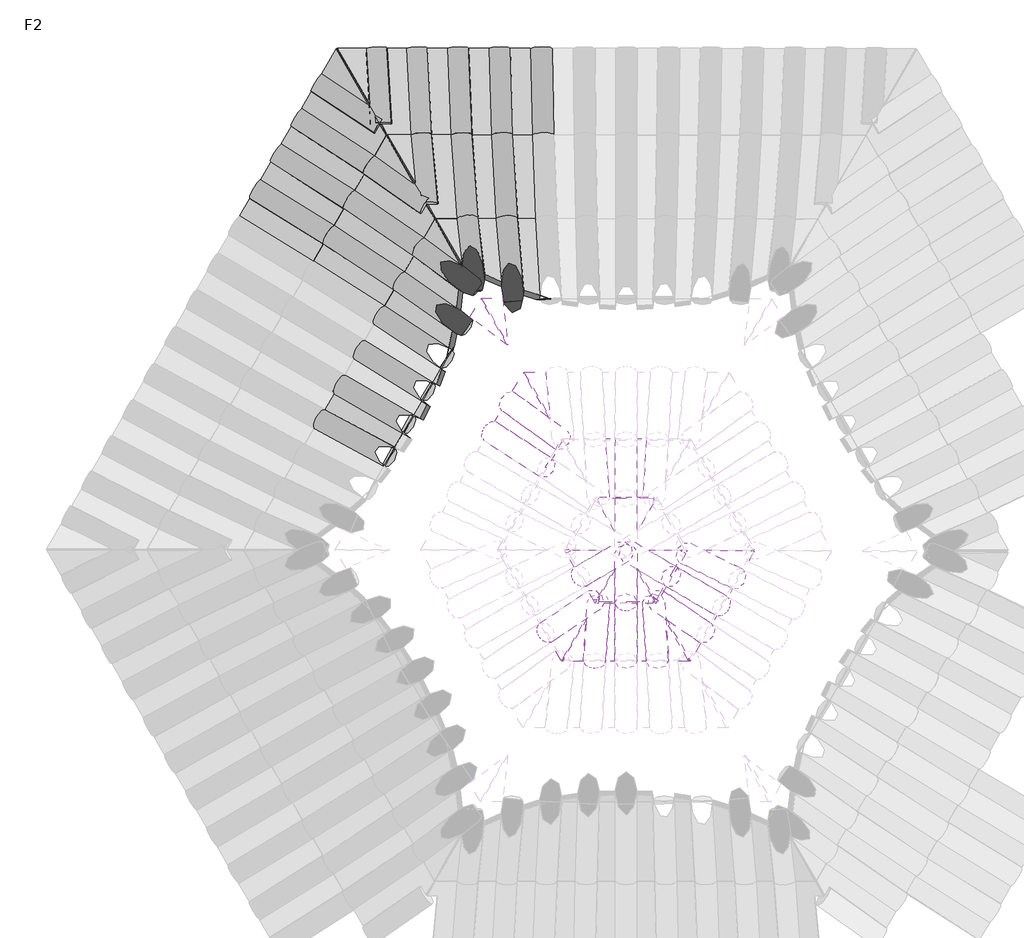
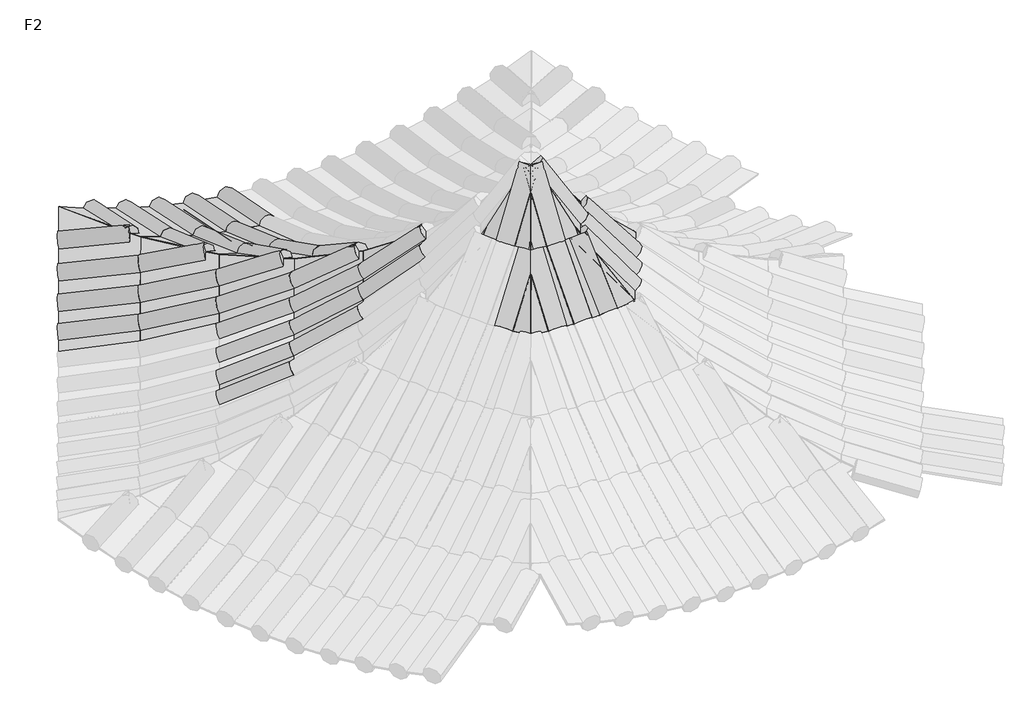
# One storey, part 4 of 6: 65 plates, 40 members.
"""IFC4 building model written with IfcOpenShell, lengths in millimetres."""

from ifc_helpers import new_model, si_unit, origin, place, context, project, spatial, transform, mapped, element, save
from components import member_7626b7be, member_5a0915c5, member_3b22838b, member_1e72f84d, member_f81221a5, member_02d8162e, member_7e32749a, member_c71233b3, member_69260188, member_985b398b, member_f4842659, member_5ab32efa, member_9361b17f, member_fd7b3f03, member_f726278f, member_74f9c3dd, member_f9a0b85f, member_28539939, member_3c0b60bf, member_ee4a1047, member_c9bd8968, member_42887ada, plate_0ebb438e, plate_6b57b127, plate_d3f52e52, plate_d213f6b1, plate_9638d80c, plate_89c366d1, plate_aaafe28a, plate_ecf98e0f, plate_a8a21952, plate_665b0e48, plate_f97c0013, plate_6a16cba0, plate_1539b490, plate_f5328a12, plate_b5858797, plate_013eb8b5, plate_5d4698b8, plate_7408a29d, plate_4d92cb37, plate_6c5d32f2, plate_1e680183, plate_9ed079f8, plate_51358e00, plate_0b5f84b8, plate_823a82dc, plate_c055fcc8, plate_38bc2d65, plate_a3322e93, plate_fe606144, plate_ecea87b7, plate_f94965ac, plate_2cce4260

model = new_model("IFC4")

# Units and contexts
model_context = context("Model", 3, world=origin())
ifc_project = project(units=[si_unit("LENGTHUNIT", "METRE", prefix="MILLI")], contexts=[model_context])

# Site, building, storey
site = spatial("IfcSite", under=ifc_project)
building = spatial("IfcBuilding", under=site)
storey = spatial("IfcBuildingStorey", under=building, Name="F2", Elevation=4000.0)

# Members
placement = place(None, origin())
member_shape = member_7626b7be(model_context)
element("IfcMember", 1, ObjectType="矩形竖梃 : 圆瓦", at=placement, inside=storey, context=model_context, shape_type="MappedRepresentation", body=[
    mapped(member_shape, transform((-18012.989856, 5191.9599436, 4853.1986775), x_axis=(-0.4679794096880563, -0.8090064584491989, -0.35567375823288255), y_axis=(-0.3144661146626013, -0.22368078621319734, 0.9225388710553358), z_axis=(-0.8258972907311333, 0.5435765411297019, -0.1497271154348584))),
])
member_2_shape = member_5a0915c5(model_context)
element("IfcMember", 2, ObjectType="矩形竖梃 : 圆瓦", at=placement, inside=storey, context=model_context, shape_type="MappedRepresentation", body=[
    mapped(member_2_shape, transform((-15523.9479527, 3.705124, 6102.8064759), x_axis=(0.9981640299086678, 0.0, -0.06056871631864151), y_axis=(0.04011716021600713, -0.7492022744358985, 0.6611252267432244), z_axis=(-0.045378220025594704, -0.6623412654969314, -0.7478267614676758))),
])
member_3_shape = member_3b22838b(model_context)
element("IfcMember", 3, ObjectType="矩形竖梃 : 圆瓦", at=placement, inside=storey, context=model_context, shape_type="MappedRepresentation", body=[
    mapped(member_3_shape, transform((-16001.2524269, 5496.139343, 4486.7877946), x_axis=(-0.9926625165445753, 0.0008272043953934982, 0.12091502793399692), y_axis=(0.11932057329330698, 0.16869991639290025, 0.9784185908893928), z_axis=(-0.019589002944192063, 0.9856671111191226, -0.16756078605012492))),
])
element("IfcMember", 4, ObjectType="矩形竖梃 : 圆瓦", at=placement, inside=storey, context=model_context, shape_type="MappedRepresentation", body=[
    mapped(member_3_shape, transform((-16379.3374915, 5496.4544084, 4544.5156178), x_axis=(-0.9835163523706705, 0.0008195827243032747, 0.18081734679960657), y_axis=(0.178363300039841, 0.16865071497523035, 0.9694036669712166), z_axis=(-0.029700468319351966, 0.9856755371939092, -0.1660169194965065))),
])
element("IfcMember", 5, ObjectType="矩形竖梃 : 圆瓦", at=placement, inside=storey, context=model_context, shape_type="MappedRepresentation", body=[
    mapped(member_3_shape, transform((-16753.2319043, 5496.7659816, 4625.0375895), x_axis=(-0.9707587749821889, 0.000808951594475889, 0.24005571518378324), y_axis=(0.23675160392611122, 0.16860205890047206, 0.9568291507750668), z_axis=(-0.039699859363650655, 0.9856838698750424, -0.16386344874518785))),
])
member_4_shape = member_1e72f84d(model_context)
element("IfcMember", 6, ObjectType="矩形竖梃 : 圆瓦", at=placement, inside=storey, context=model_context, shape_type="MappedRepresentation", body=[
    mapped(member_4_shape, transform((-17121.5627474, 5497.0729187, 4728.0580377), x_axis=(-0.9544366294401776, 0.0007953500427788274, 0.29841261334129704), y_axis=(0.29427108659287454, 0.168554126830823, 0.9407412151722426), z_axis=(-0.04955045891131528, 0.9856920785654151, -0.16110828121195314))),
])
member_5_shape = member_f81221a5(model_context)
element("IfcMember", 7, ObjectType="矩形竖梃 : 圆瓦", at=placement, inside=storey, context=model_context, shape_type="MappedRepresentation", body=[
    mapped(member_5_shape, transform((-15241.8237888, 3.705124, 6094.2546763), x_axis=(1.0, 0.0, 0.0), y_axis=(0.0, -0.7492022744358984, 0.6623412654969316), z_axis=(0.0, -0.6623412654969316, -0.7492022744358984))),
])
member_6_shape = member_02d8162e(model_context)
element("IfcMember", 8, ObjectType="矩形竖梃 : 圆瓦", at=placement, inside=storey, context=model_context, shape_type="MappedRepresentation", body=[
    mapped(member_6_shape, transform((-14385.9670298, 494.3302424, 6094.2546763), x_axis=(0.5053183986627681, 0.8629329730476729, 0.0), y_axis=(0.6465113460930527, -0.3785856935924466, 0.6623412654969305), z_axis=(0.5715561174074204, -0.33469322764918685, -0.7492022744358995))),
])
element("IfcMember", 9, ObjectType="矩形竖梃 : 圆瓦", at=placement, inside=storey, context=model_context, shape_type="MappedRepresentation", body=[
    mapped(member_6_shape, transform((-16355.8707823, 4717.6599128, 4675.6876498), x_axis=(-0.9835163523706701, 0.0008195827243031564, 0.18081734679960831), y_axis=(0.17271902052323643, 0.30020701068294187, 0.9381065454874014), z_axis=(-0.05351377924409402, 0.9538737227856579, -0.2954000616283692))),
])
element("IfcMember", 10, ObjectType="矩形竖梃 : 圆瓦", at=placement, inside=storey, context=model_context, shape_type="MappedRepresentation", body=[
    mapped(member_6_shape, transform((-17810.5976413, 2481.4427269, 4811.1593559), x_axis=(-0.5007215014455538, -0.8656084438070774, 0.0), y_axis=(-0.36909581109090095, 0.21350786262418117, 0.9045345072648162), z_axis=(-0.7829727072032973, 0.45291987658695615, -0.42640042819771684))),
])
element("IfcMember", 11, ObjectType="矩形竖梃 : 圆瓦", at=placement, inside=storey, context=model_context, shape_type="MappedRepresentation", body=[
    mapped(member_6_shape, transform((-17990.7770662, 2169.9625305, 4822.0668801), x_axis=(-0.49980219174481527, -0.8640192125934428, 0.06056871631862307), y_axis=(-0.34166303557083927, 0.2609315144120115, 0.9028738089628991), z_axis=(-0.7959046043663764, 0.4305642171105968, -0.4256175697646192))),
])
element("IfcMember", 12, ObjectType="矩形竖梃 : 圆瓦", at=placement, inside=storey, context=model_context, shape_type="MappedRepresentation", body=[
    mapped(member_6_shape, transform((-17191.9611716, 2123.5851019, 5148.0636351), x_axis=(-0.5007215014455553, -0.8656084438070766, 0.0), y_axis=(-0.4714441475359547, 0.27271247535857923, 0.83867056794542), z_axis=(-0.7259603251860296, 0.4199403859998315, -0.5446390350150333))),
])
member_7_shape = member_7e32749a(model_context)
element("IfcMember", 13, ObjectType="矩形竖梃 : 圆瓦", at=placement, inside=storey, context=model_context, shape_type="MappedRepresentation", body=[
    mapped(member_7_shape, transform((-16721.8645519, 4717.9649024, 4754.5081374), x_axis=(-0.9707587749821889, 0.0008089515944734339, 0.24005571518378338), y_axis=(0.2292222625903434, 0.30015992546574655, 0.9259379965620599), z_axis=(-0.07130606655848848, 0.9538885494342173, -0.2915683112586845))),
])
member_8_shape = member_c71233b3(model_context)
element("IfcMember", 14, ObjectType="矩形竖梃 : 圆瓦", at=placement, inside=storey, context=model_context, shape_type="MappedRepresentation", body=[
    mapped(member_8_shape, transform((-16313.58888, 3963.9924262, 4909.0869108), x_axis=(-0.9835163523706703, 0.0008195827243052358, 0.18081734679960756), y_axis=(0.16391080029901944, 0.4262639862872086, 0.8896247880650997), z_axis=(-0.07634680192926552, 0.9045984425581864, -0.41937193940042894))),
])
member_9_shape = member_69260188(model_context)
element("IfcMember", 15, ObjectType="矩形竖梃 : 圆瓦", at=placement, inside=storey, context=model_context, shape_type="MappedRepresentation", body=[
    mapped(member_9_shape, transform((-16253.2663227, 3249.2579511, 5240.4378936), x_axis=(-0.9835163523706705, 0.0008195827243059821, 0.18081734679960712), y_axis=(0.152507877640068, 0.5409975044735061, 0.8270810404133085), z_axis=(-0.09714387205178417, 0.8410237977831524, -0.5322048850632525))),
])
member_10_shape = member_985b398b(model_context)
element("IfcMember", 16, ObjectType="矩形竖梃 : 圆瓦", at=placement, inside=storey, context=model_context, shape_type="MappedRepresentation", body=[
    mapped(member_10_shape, transform((-14959.6996249, 3.705124, 6102.8064759), x_axis=(0.9981640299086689, 0.0, 0.06056871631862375), y_axis=(-0.04011716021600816, -0.7492022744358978, 0.661125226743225), z_axis=(0.04537822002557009, -0.6623412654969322, -0.7478267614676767))),
])
element("IfcMember", 17, ObjectType="矩形竖梃 : 圆瓦", at=placement, inside=storey, context=model_context, shape_type="MappedRepresentation", body=[
    mapped(member_10_shape, transform((-14243.4044991, 737.7844859, 6102.8064759), x_axis=(0.5043906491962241, 0.861348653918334, 0.060568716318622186), y_axis=(0.626239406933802, -0.41320411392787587, 0.6611252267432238), z_axis=(0.5944865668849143, -0.29553486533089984, -0.7478267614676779))),
])
element("IfcMember", 18, ObjectType="矩形竖梃 : 圆瓦", at=placement, inside=storey, context=model_context, shape_type="MappedRepresentation", body=[
    mapped(member_10_shape, transform((-14837.5606236, 758.7755223, 6686.2087072), x_axis=(0.5053183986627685, 0.8629329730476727, 0.0), y_axis=(0.7177700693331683, -0.42031355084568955, 0.555105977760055), z_axis=(0.4790192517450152, -0.28050526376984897, -0.8317796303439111))),
])
element("IfcMember", 19, ObjectType="矩形竖梃 : 圆瓦", at=placement, inside=storey, context=model_context, shape_type="MappedRepresentation", body=[
    mapped(member_2_shape, transform((-15241.8237888, 527.0291919, 6686.2087072), x_axis=(1.0, 0.0, 0.0), y_axis=(0.0, -0.8317796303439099, 0.5551059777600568), z_axis=(0.0, -0.5551059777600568, -0.8317796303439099))),
])
element("IfcMember", 20, ObjectType="矩形竖梃 : 圆瓦", at=placement, inside=storey, context=model_context, shape_type="MappedRepresentation", body=[
    mapped(member_2_shape, transform((-15960.3021334, 255.8768008, 6102.8064759), x_axis=(0.49836149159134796, -0.8648510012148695, 0.06056871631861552), y_axis=(-0.6691697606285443, -0.3393011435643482, 0.6611252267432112), z_axis=(-0.5512237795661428, -0.37001010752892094, -0.7478267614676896))),
])
element("IfcMember", 21, ObjectType="矩形竖梃 : 圆瓦", at=placement, inside=storey, context=model_context, shape_type="MappedRepresentation", body=[
    mapped(member_2_shape, transform((-15647.7307367, 761.6052317, 6686.2087072), x_axis=(0.4992781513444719, -0.866441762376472, 0.0), y_axis=(-0.7206886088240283, -0.4152893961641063, 0.5551059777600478), z_axis=(-0.4809670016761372, -0.27715228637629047, -0.831779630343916))),
])
member_11_shape = member_f4842659(model_context)
element("IfcMember", 22, ObjectType="矩形竖梃 : 圆瓦", at=placement, inside=storey, context=model_context, shape_type="MappedRepresentation", body=[
    mapped(member_11_shape, transform((-17082.4123139, 4718.2653536, 4855.3516935), x_axis=(-0.9544366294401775, 0.0007953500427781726, 0.29841261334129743), y_axis=(0.2859069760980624, 0.28890557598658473, 0.9136688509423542), z_axis=(-0.08548638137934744, 0.957357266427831, -0.27596946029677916))),
])
member_12_shape = member_5ab32efa(model_context)
element("IfcMember", 23, ObjectType="矩形竖梃 : 圆瓦", at=placement, inside=storey, context=model_context, shape_type="MappedRepresentation", body=[
    mapped(member_12_shape, transform((-16665.5247423, 3964.285701, 4984.8798848), x_axis=(-0.9707587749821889, 0.0008089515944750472, 0.24005571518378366), y_axis=(0.21847238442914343, 0.4173960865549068, 0.8820716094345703), z_axis=(-0.09948476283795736, 0.908724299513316, -0.40536764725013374))),
])
member_13_shape = member_9361b17f(model_context)
element("IfcMember", 24, ObjectType="矩形竖梃 : 圆瓦", at=placement, inside=storey, context=model_context, shape_type="MappedRepresentation", body=[
    mapped(member_13_shape, transform((-17482.977532, 5497.3740924, 4853.1986775), x_axis=(-0.9346098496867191, 0.0007788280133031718, 0.35567375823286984), y_axis=(0.3512132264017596, 0.15991142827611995, 0.9225386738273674), z_axis=(-0.056157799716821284, 0.9871310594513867, -0.1497283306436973))),
])
member_14_shape = member_fd7b3f03(model_context)
element("IfcMember", 25, ObjectType="矩形竖梃 : 圆瓦", at=placement, inside=storey, context=model_context, shape_type="MappedRepresentation", body=[
    mapped(member_14_shape, transform((-17539.7725651, 4454.7162143, 4855.3516935), x_axis=(-0.47790710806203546, -0.8261686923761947, -0.2984126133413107), y_axis=(-0.39332331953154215, -0.10249530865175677, 0.9136692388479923), z_axis=(-0.7854308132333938, 0.554021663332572, -0.2759681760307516))),
])
member_15_shape = member_f726278f(model_context)
element("IfcMember", 26, ObjectType="矩形竖梃 : 圆瓦", at=placement, inside=storey, context=model_context, shape_type="MappedRepresentation", body=[
    mapped(member_15_shape, transform((-18193.9580724, 4879.1161458, 4728.0580377), x_axis=(-0.47790710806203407, -0.8261686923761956, -0.2984126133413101), y_axis=(-0.29339156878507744, -0.17008043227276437, 0.940741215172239), z_axis=(-0.8279650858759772, 0.5371386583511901, -0.1611082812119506))),
])
member_16_shape = member_74f9c3dd(model_context)
element("IfcMember", 27, ObjectType="矩形竖梃 : 圆瓦", at=placement, inside=storey, context=model_context, shape_type="MappedRepresentation", body=[
    mapped(member_16_shape, transform((-17720.3066445, 4142.6229188, 4754.5081374), x_axis=(-0.48607996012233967, -0.8402972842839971, -0.24005571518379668), y_axis=(-0.3746374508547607, -0.04780802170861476, 0.9259379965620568), z_axis=(-0.7895397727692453, 0.5400137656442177, -0.2915683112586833))),
])
member_17_shape = member_f9a0b85f(model_context)
element("IfcMember", 28, ObjectType="矩形竖梃 : 圆瓦", at=placement, inside=storey, context=model_context, shape_type="MappedRepresentation", body=[
    mapped(member_17_shape, transform((-17096.4814547, 3715.9513293, 4984.8798848), x_axis=(-0.4860799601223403, -0.8402972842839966, -0.2400557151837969), y_axis=(-0.47067731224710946, 0.020278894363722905, 0.8820723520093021), z_axis=(-0.7363349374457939, 0.5417464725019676, -0.40536603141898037))),
])
member_18_shape = member_28539939(model_context)
element("IfcMember", 29, ObjectType="矩形竖梃 : 圆瓦", at=placement, inside=storey, context=model_context, shape_type="MappedRepresentation", body=[
    mapped(member_18_shape, transform((-18378.3893093, 4560.2857472, 4625.0375895), x_axis=(-0.48607996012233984, -0.8402972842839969, -0.24005571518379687), y_axis=(-0.2645903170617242, -0.12029106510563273, 0.9568291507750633), z_axis=(-0.832897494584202, 0.5286118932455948, -0.16386344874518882))),
])
element("IfcMember", 30, ObjectType="矩形竖梃 : 圆瓦", at=placement, inside=storey, context=model_context, shape_type="MappedRepresentation", body=[
    mapped(member_18_shape, transform((-18565.606346, 4236.639474, 4544.5156178), x_axis=(-0.4924679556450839, -0.8513403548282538, -0.180817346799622), y_axis=(-0.23535402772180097, -0.06974963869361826, 0.9694036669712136), z_axis=(-0.8379044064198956, 0.5199563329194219, -0.1660169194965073))),
])
member_19_shape = member_3c0b60bf(model_context)
element("IfcMember", 31, ObjectType="矩形竖梃 : 圆瓦", at=placement, inside=storey, context=model_context, shape_type="MappedRepresentation", body=[
    mapped(member_19_shape, transform((-17903.567658, 3825.8155114, 4675.6876498), x_axis=(-0.49246795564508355, -0.851340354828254, -0.18081734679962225), y_axis=(-0.34634505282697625, 0.0011016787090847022, 0.9381065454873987), z_axis=(-0.7984487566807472, 0.5246126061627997, -0.29540006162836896))),
])
element("IfcMember", 32, ObjectType="矩形竖梃 : 圆瓦", at=placement, inside=storey, context=model_context, shape_type="MappedRepresentation", body=[
    mapped(member_19_shape, transform((-17450.9003994, 3103.2593832, 4854.7494012), x_axis=(-0.49704763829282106, -0.8592573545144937, -0.12091502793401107), y_axis=(-0.42386063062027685, 0.11883469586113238, 0.8978978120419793), z_axis=(-0.7571563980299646, 0.49754910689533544, -0.4232718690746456))),
])
element("IfcMember", 33, ObjectType="矩形竖梃 : 圆瓦", at=placement, inside=storey, context=model_context, shape_type="MappedRepresentation", body=[
    mapped(member_19_shape, transform((-17630.4182163, 2792.9229234, 4822.0668801), x_axis=(-0.49980219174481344, -0.8640192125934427, -0.060568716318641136), y_axis=(-0.3965285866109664, 0.1660842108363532, 0.9028738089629), z_axis=(-0.7700408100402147, 0.4752755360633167, -0.42561756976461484))),
])
element("IfcMember", 34, ObjectType="矩形竖梃 : 圆瓦", at=placement, inside=storey, context=model_context, shape_type="MappedRepresentation", body=[
    mapped(member_19_shape, transform((-16852.6617166, 2710.1396485, 5189.1817669), x_axis=(-0.4970476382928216, -0.8592573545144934, -0.1209150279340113), y_axis=(-0.5222212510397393, 0.1849329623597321, 0.8325171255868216), z_axis=(-0.692985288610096, 0.47694506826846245, -0.5406429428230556))),
])
element("IfcMember", 35, ObjectType="矩形竖梃 : 圆瓦", at=placement, inside=storey, context=model_context, shape_type="MappedRepresentation", body=[
    mapped(member_19_shape, transform((-17021.9993994, 2417.4018139, 5158.3526132), x_axis=(-0.49980219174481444, -0.8640192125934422, -0.060568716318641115), y_axis=(-0.49687939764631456, 0.22874199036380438, 0.837130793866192), z_axis=(-0.7094424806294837, 0.44849515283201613, -0.5436390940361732))),
])
element("IfcMember", 36, ObjectType="矩形竖梃 : 圆瓦", at=placement, inside=storey, context=model_context, shape_type="MappedRepresentation", body=[
    mapped(member_19_shape, transform((-16461.4600759, 2063.0402181, 5587.8886197), x_axis=(-0.4998021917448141, -0.8640192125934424, -0.06056871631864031), y_axis=(-0.5881281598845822, 0.28720957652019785, 0.7560528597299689), z_axis=(-0.6358482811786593, 0.41349904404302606, -0.6517020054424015))),
])
member_20_shape = member_ee4a1047(model_context)
element("IfcMember", 37, ObjectType="矩形竖梃 : 圆瓦", at=placement, inside=storey, context=model_context, shape_type="MappedRepresentation", body=[
    mapped(member_20_shape, transform((-17272.7033693, 3411.3125695, 4909.0869108), x_axis=(-0.4924679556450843, -0.8513403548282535, -0.18081734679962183), y_axis=(-0.4509915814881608, 0.07193281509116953, 0.8896247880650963), z_axis=(-0.7443667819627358, 0.519658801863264, -0.41937193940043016))),
])
member_21_shape = member_c9bd8968(model_context)
element("IfcMember", 38, ObjectType="矩形竖梃 : 圆瓦", at=placement, inside=storey, context=model_context, shape_type="MappedRepresentation", body=[
    mapped(member_21_shape, transform((-16684.5699211, 3000.7236899, 5240.4378936), x_axis=(-0.49246795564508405, -0.8513403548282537, -0.18081734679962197), y_axis=(-0.5445384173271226, 0.13932957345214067, 0.8270823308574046), z_axis=(-0.6789353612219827, 0.5057735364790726, -0.5322028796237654))),
])
member_22_shape = member_42887ada(model_context)
element("IfcMember", 39, ObjectType="矩形竖梃 : 圆瓦", at=placement, inside=storey, context=model_context, shape_type="MappedRepresentation", body=[
    mapped(member_22_shape, transform((-14528.5295605, 250.8759989, 6102.8064759), x_axis=(0.5043906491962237, 0.8613486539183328, -0.060568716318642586), y_axis=(0.6667832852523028, -0.34396727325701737, 0.6611252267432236), z_axis=(0.5486256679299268, -0.3738515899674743, -0.7478267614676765))),
])
element("IfcMember", 40, ObjectType="矩形竖梃 : 圆瓦", at=placement, inside=storey, context=model_context, shape_type="MappedRepresentation", body=[
    mapped(member_22_shape, transform((-16305.1254251, 2333.2994208, 5616.3504772), x_axis=(-0.49704763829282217, -0.8592573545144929, -0.12091502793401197), y_axis=(-0.6110155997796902, 0.24764354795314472, 0.7518860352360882), z_axis=(-0.6161197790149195, 0.44760414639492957, -0.6481102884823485))),
])

# Plates
plate_shape = plate_0ebb438e(model_context)
element("IfcPlate", 41, ObjectType="空系统嵌板 : 空", at=placement, inside=storey, context=model_context, shape_type="MappedRepresentation", body=[
    mapped(plate_shape, transform((-18080.6063256, 5075.0698424, 4806.441471), x_axis=(-0.4731604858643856, -0.8179631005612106, -0.3271933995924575), y_axis=(0.30753287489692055, 0.19467718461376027, -0.9314098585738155), z_axis=(0.8255559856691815, -0.5413290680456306, 0.1594369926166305))),
])
plate_2_shape = plate_6b57b127(model_context)
element("IfcPlate", 42, ObjectType="空系统嵌板 : 空", at=placement, inside=storey, context=model_context, shape_type="MappedRepresentation", body=[
    mapped(plate_2_shape, transform((-16190.2949592, 5496.2968757, 4515.6517062), x_axis=(-0.9885432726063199, 0.0008237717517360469, 0.150935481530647), y_axis=(-0.14891211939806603, -0.16859996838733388, -0.9743711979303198), z_axis=(0.024645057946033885, -0.9856842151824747, 0.16679103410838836))),
])
element("IfcPlate", 43, ObjectType="空系统嵌板 : 空", at=placement, inside=storey, context=model_context, shape_type="MappedRepresentation", body=[
    mapped(plate_2_shape, transform((-16566.2846979, 5496.610195, 4584.7766036), x_axis=(-0.9775863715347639, 0.0008146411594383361, 0.21053318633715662), y_axis=(-0.20765537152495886, -0.16855101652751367, -0.9635713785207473), z_axis=(0.03470061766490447, -0.9856925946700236, 0.1649423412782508))),
])
element("IfcPlate", 44, ObjectType="空系统嵌板 : 空", at=placement, inside=storey, context=model_context, shape_type="MappedRepresentation", body=[
    mapped(plate_2_shape, transform((-16937.3973259, 5496.9194502, 4676.5478136), x_axis=(-0.9630398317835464, 0.0008025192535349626, 0.26935782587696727), y_axis=(-0.2656366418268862, -0.1685026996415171, -0.9492333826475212), z_axis=(0.044625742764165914, -0.9857008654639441, 0.16248799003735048))),
])
element("IfcPlate", 45, ObjectType="空系统嵌板 : 空", at=placement, inside=storey, context=model_context, shape_type="MappedRepresentation", body=[
    mapped(plate_2_shape, transform((-18286.1736908, 4719.7009465, 4676.5478136), x_axis=(-0.48221491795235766, -0.8336156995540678, -0.2693578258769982), y_axis=(0.2789885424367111, 0.145331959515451, -0.9492333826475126), z_axis=(0.8304421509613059, -0.5328822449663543, 0.16248799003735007))),
])
element("IfcPlate", 46, ObjectType="空系统嵌板 : 空", at=placement, inside=storey, context=model_context, shape_type="MappedRepresentation", body=[
    mapped(plate_2_shape, transform((-18471.9978276, 4398.4626106, 4584.7766036), x_axis=(-0.48949868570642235, -0.8462073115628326, -0.21053318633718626), y_axis=(0.24995606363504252, 0.09514286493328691, -0.9635713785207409), z_axis=(0.8354118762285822, -0.5242909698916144, 0.16494234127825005))),
])
element("IfcPlate", 47, ObjectType="空系统嵌板 : 空", at=placement, inside=storey, context=model_context, shape_type="MappedRepresentation", body=[
    mapped(plate_2_shape, transform((-18660.2640395, 4073.002605, 4515.6517062), x_axis=(-0.49498504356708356, -0.8556917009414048, -0.15093548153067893), y_axis=(0.22054204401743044, 0.04429419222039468, -0.9743711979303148), z_axis=(0.840446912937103, -0.5155867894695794, 0.16679103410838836))),
])
plate_3_shape = plate_d3f52e52(model_context)
element("IfcPlate", 48, ObjectType="空系统嵌板 : 空", at=placement, inside=storey, context=model_context, shape_type="MappedRepresentation", body=[
    mapped(plate_3_shape, transform((-17440.2413062, 4627.558505, 4924.281917), x_axis=(-0.4731604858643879, -0.8179631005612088, -0.3271933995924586), y_axis=(0.41615250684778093, 0.11982658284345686, -0.9013648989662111), z_axis=(0.7764896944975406, -0.5626526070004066, 0.28370019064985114))),
])
plate_4_shape = plate_d213f6b1(model_context)
element("IfcPlate", 49, ObjectType="空系统嵌板 : 空", at=placement, inside=storey, context=model_context, shape_type="MappedRepresentation", body=[
    mapped(plate_4_shape, transform((-17607.3080437, 4337.9661239, 4817.6274153), x_axis=(-0.4822149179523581, -0.8336156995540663, -0.2693578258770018), y_axis=(0.38852894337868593, 0.07207311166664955, -0.9186134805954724), z_axis=(0.7851840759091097, -0.5476224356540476, 0.28912909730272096))),
])
plate_5_shape = plate_9638d80c(model_context)
element("IfcPlate", 50, ObjectType="空系统嵌板 : 空", at=placement, inside=storey, context=model_context, shape_type="MappedRepresentation", body=[
    mapped(plate_5_shape, transform((-16170.8228472, 4717.5057089, 4647.4336523), x_axis=(-0.9885432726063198, 0.0008237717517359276, 0.1509354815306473), y_axis=(-0.14422270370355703, -0.3001052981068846, -0.9429404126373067), z_axis=(0.04451977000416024, -0.953905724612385, 0.2967858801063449))),
])
element("IfcPlate", 51, ObjectType="空系统嵌板 : 空", at=placement, inside=storey, context=model_context, shape_type="MappedRepresentation", body=[
    mapped(plate_5_shape, transform((-16538.8676671, 4717.8124076, 4715.0978936), x_axis=(-0.9775863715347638, 0.0008146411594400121, 0.2105331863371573), y_axis=(-0.20107104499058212, -0.30005792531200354, -0.9324889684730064), z_axis=(0.062412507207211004, -0.9539206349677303, 0.29349633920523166))),
])
element("IfcPlate", 52, ObjectType="空系统嵌板 : 空", at=placement, inside=storey, context=model_context, shape_type="MappedRepresentation", body=[
    mapped(plate_5_shape, transform((-17811.9371512, 3984.2192151, 4715.0978936), x_axis=(-0.4894986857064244, -0.8462073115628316, -0.21053318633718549), y_axis=(0.36043297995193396, 0.023502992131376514, -0.9324889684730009), z_axis=(0.7940271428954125, -0.5323352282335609, 0.2934963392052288))),
])
element("IfcPlate", 53, ObjectType="空系统嵌板 : 空", at=placement, inside=storey, context=model_context, shape_type="MappedRepresentation", body=[
    mapped(plate_5_shape, transform((-17996.22517, 3665.6364007, 4647.4336523), x_axis=(-0.4949850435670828, -0.8556917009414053, -0.15093548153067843), y_axis=(0.3319677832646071, -0.025705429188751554, -0.9429404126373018), z_axis=(0.8029864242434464, -0.5168471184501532, 0.29678588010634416))),
])
plate_6_shape = plate_89c366d1(model_context)
element("IfcPlate", 54, ObjectType="空系统嵌板 : 空", at=placement, inside=storey, context=model_context, shape_type="MappedRepresentation", body=[
    mapped(plate_6_shape, transform((-17001.0605111, 3882.1092351, 5038.1770919), x_axis=(-0.4822149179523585, -0.8336156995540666, -0.2693578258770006), y_axis=(0.4909648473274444, -0.0025102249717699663, -0.8711757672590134), z_axis=(0.7255496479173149, -0.552339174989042, 0.41048647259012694))),
])
plate_7_shape = plate_aaafe28a(model_context)
element("IfcPlate", 55, ObjectType="空系统嵌板 : 空", at=placement, inside=storey, context=model_context, shape_type="MappedRepresentation", body=[
    mapped(plate_7_shape, transform((-17184.1895176, 3564.3284419, 4947.1566825), x_axis=(-0.48949868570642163, -0.846207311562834, -0.21053318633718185), y_axis=(0.46431977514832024, -0.048572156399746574, -0.8843347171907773), z_axis=(0.7381044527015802, -0.5306354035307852, 0.41668679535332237))),
])
plate_8_shape = plate_ecf98e0f(model_context)
element("IfcPlate", 56, ObjectType="空系统嵌板 : 空", at=placement, inside=storey, context=model_context, shape_type="MappedRepresentation", body=[
    mapped(plate_8_shape, transform((-16135.64868, 3963.8441453, 4881.918156), x_axis=(-0.9885432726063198, 0.0008237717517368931, 0.15093548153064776), y_axis=(-0.1368928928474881, -0.4261263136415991, -0.8942464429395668), z_axis=(0.06358092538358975, -0.9046632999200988, 0.4213570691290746))),
])
element("IfcPlate", 57, ObjectType="空系统嵌板 : 空", at=placement, inside=storey, context=model_context, shape_type="MappedRepresentation", body=[
    mapped(plate_8_shape, transform((-17361.8018843, 3257.2859764, 4881.918156), x_axis=(-0.4949850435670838, -0.8556917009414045, -0.1509354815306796), y_axis=(0.4373245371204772, -0.09523942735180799, -0.8942464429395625), z_axis=(0.7508242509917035, -0.5086464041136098, 0.4213570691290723))),
])
element("IfcPlate", 58, ObjectType="空系统嵌板 : 空", at=placement, inside=storey, context=model_context, shape_type="MappedRepresentation", body=[
    mapped(plate_8_shape, transform((-17900.6873537, 2325.7026287, 4816.613118), x_axis=(-0.5004916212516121, -0.8652110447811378, 0.030298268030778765), y_axis=(0.3552333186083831, -0.23715235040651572, -0.9041946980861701), z_axis=(0.7895045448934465, -0.44177891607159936, 0.42604455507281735))),
])
plate_9_shape = plate_a8a21952(model_context)
element("IfcPlate", 59, ObjectType="空系统嵌板 : 空", at=placement, inside=storey, context=model_context, shape_type="MappedRepresentation", body=[
    mapped(plate_9_shape, transform((-16588.6394523, 3167.657309, 5281.5374011), x_axis=(-0.4894986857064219, -0.846207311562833, -0.21053318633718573), y_axis=(0.5597153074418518, -0.11976484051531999, -0.8199848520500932), z_axis=(0.6686627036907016, -0.519220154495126, 0.5322599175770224))),
])
plate_10_shape = plate_665b0e48(model_context)
element("IfcPlate", 60, ObjectType="空系统嵌板 : 空", at=placement, inside=storey, context=model_context, shape_type="MappedRepresentation", body=[
    mapped(plate_10_shape, transform((-16768.3970291, 2855.8098959, 5214.8765457), x_axis=(-0.49498504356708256, -0.8556917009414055, -0.1509354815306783), y_axis=(0.5346844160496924, -0.16303630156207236, -0.8291753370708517), z_axis=(0.684910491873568, -0.49113224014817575, 0.5382255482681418))),
])
plate_11_shape = plate_f97c0013(model_context)
element("IfcPlate", 61, ObjectType="空系统嵌板 : 空", at=placement, inside=storey, context=model_context, shape_type="MappedRepresentation", body=[
    mapped(plate_11_shape, transform((-16207.3466601, 2502.8302383, 5646.0144329), x_axis=(-0.49498504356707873, -0.8556917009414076, -0.15093548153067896), y_axis=(0.6222637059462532, -0.2278551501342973, -0.7489124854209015), z_axis=(0.6064467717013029, -0.4646221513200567, 0.6452507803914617))),
])
plate_12_shape = plate_6a16cba0(model_context)
element("IfcPlate", 62, ObjectType="空系统嵌板 : 空", at=placement, inside=storey, context=model_context, shape_type="MappedRepresentation", body=[
    mapped(plate_12_shape, transform((-16937.330558, 2563.7707312, 5173.76719), x_axis=(-0.4986538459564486, -0.8620340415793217, -0.09078355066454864), y_axis=(0.5094207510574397, -0.20671016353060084, -0.8353211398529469), z_axis=(0.7013093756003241, -0.46278312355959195, 0.5422148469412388))),
])
element("IfcPlate", 63, ObjectType="空系统嵌板 : 空", at=placement, inside=storey, context=model_context, shape_type="MappedRepresentation", body=[
    mapped(plate_12_shape, transform((-17106.9802855, 2270.4934579, 5153.2081241), x_axis=(-0.5004916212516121, -0.8652110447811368, -0.03029826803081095), y_axis=(0.4840170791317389, -0.2506260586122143, -0.8383996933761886), z_axis=(0.7177991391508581, -0.43427690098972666, 0.5442131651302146))),
])
plate_13_shape = plate_1539b490(model_context)
element("IfcPlate", 64, ObjectType="空系统嵌板 : 空", at=placement, inside=storey, context=model_context, shape_type="MappedRepresentation", body=[
    mapped(plate_13_shape, transform((-16383.2927505, 2198.1698195, 5602.1195484), x_axis=(-0.49865384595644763, -0.8620340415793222, -0.0907835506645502), y_axis=(0.5994455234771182, -0.26730145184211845, -0.7544633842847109), z_axis=(0.6261065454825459, -0.4306358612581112, 0.6500333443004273))),
])
plate_14_shape = plate_f5328a12(model_context)
element("IfcPlate", 65, ObjectType="空系统嵌板 : 空", at=placement, inside=storey, context=model_context, shape_type="MappedRepresentation", body=[
    mapped(plate_14_shape, transform((-15809.7345895, 3.5676191, 6128.9905814), x_axis=(0.9885436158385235, 0.0, -0.15093548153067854), y_axis=(-0.09999656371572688, 0.7490513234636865, -0.6549219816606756), z_axis=(0.11305842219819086, 0.6625119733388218, 0.740469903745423))),
])
element("IfcPlate", 66, ObjectType="空系统嵌板 : 空", at=placement, inside=storey, context=model_context, shape_type="MappedRepresentation", body=[
    mapped(plate_14_shape, transform((-14672.8241487, 4.1918029, 6128.9905814), x_axis=(0.49952927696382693, 0.8530468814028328, -0.15093548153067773), y_axis=(-0.6969111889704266, 0.2922190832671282, -0.6549219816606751), z_axis=(-0.5145729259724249, 0.4323413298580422, 0.7404699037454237))),
])
element("IfcPlate", 67, ObjectType="空系统嵌板 : 空", at=placement, inside=storey, context=model_context, shape_type="MappedRepresentation", body=[
    mapped(plate_14_shape, transform((-14098.8224185, 998.6959283, 6128.9905814), x_axis=(-0.493558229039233, 0.8565154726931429, -0.15093548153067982), y_axis=(-0.5990832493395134, -0.4606261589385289, -0.6549219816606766), z_axis=(-0.6304756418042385, -0.23281921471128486, 0.7404699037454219))),
])
plate_15_shape = plate_b5858797(model_context)
element("IfcPlate", 68, ObjectType="空系统嵌板 : 空", at=placement, inside=storey, context=model_context, shape_type="MappedRepresentation", body=[
    mapped(plate_15_shape, transform((-15714.298429, 3.705124, 6120.158822), x_axis=(0.9958706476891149, 0.0, -0.09078355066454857), y_axis=(-0.060145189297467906, 0.749051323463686, -0.6597762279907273), z_axis=(0.06800153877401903, 0.6625119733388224, 0.7459582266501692))),
])
element("IfcPlate", 69, ObjectType="空系统嵌板 : 空", at=placement, inside=storey, context=model_context, shape_type="MappedRepresentation", body=[
    mapped(plate_15_shape, transform((-14624.7171584, 86.6162965, 6120.158822), x_axis=(0.5032317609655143, 0.8593696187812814, -0.09078355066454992), y_axis=(-0.676773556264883, 0.3266081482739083, -0.6597762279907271), z_axis=(-0.5373409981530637, 0.39346025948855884, 0.7459582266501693))),
])
plate_16_shape = plate_013eb8b5(model_context)
element("IfcPlate", 70, ObjectType="空系统嵌板 : 空", at=placement, inside=storey, context=model_context, shape_type="MappedRepresentation", body=[
    mapped(plate_16_shape, transform((-15382.8858707, 3.705124, 6098.5305761), x_axis=(0.9995409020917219, 0.0, -0.030298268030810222), y_axis=(-0.020072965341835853, 0.7490513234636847, -0.662207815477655), z_axis=(0.022694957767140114, 0.6625119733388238, 0.7487074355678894))),
])
element("IfcPlate", 71, ObjectType="空系统嵌板 : 空", at=placement, inside=storey, context=model_context, shape_type="MappedRepresentation", body=[
    mapped(plate_16_shape, transform((-15100.7617069, 3.705124, 6098.5305761), x_axis=(0.9995409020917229, 0.0, 0.03029826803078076), y_axis=(0.020072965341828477, 0.7490513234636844, -0.6622078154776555), z_axis=(-0.022694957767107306, 0.6625119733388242, 0.7487074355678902))),
])
element("IfcPlate", 72, ObjectType="空系统嵌板 : 空", at=placement, inside=storey, context=model_context, shape_type="MappedRepresentation", body=[
    mapped(plate_16_shape, transform((-14457.2482952, 372.6031206, 6098.5305761), x_axis=(0.5050864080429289, 0.8625368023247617, -0.030298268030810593), y_axis=(-0.6565243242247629, 0.3611877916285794, -0.6622078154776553), z_axis=(-0.5602352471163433, 0.3543637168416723, 0.7487074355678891))),
])
element("IfcPlate", 73, ObjectType="空系统嵌板 : 空", at=placement, inside=storey, context=model_context, shape_type="MappedRepresentation", body=[
    mapped(plate_16_shape, transform((-14314.6857645, 616.0573641, 6098.5305761), x_axis=(0.5050864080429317, 0.8625368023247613, 0.030298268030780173), y_axis=(-0.6362378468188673, 0.39583103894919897, -0.6622078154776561), z_axis=(-0.5831716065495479, 0.31519526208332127, 0.7487074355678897))),
])
element("IfcPlate", 74, ObjectType="空系统嵌板 : 空", at=placement, inside=storey, context=model_context, shape_type="MappedRepresentation", body=[
    mapped(plate_16_shape, transform((-15099.9352707, 1987.1868506, 6098.5305761), x_axis=(-0.999540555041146, 0.0008329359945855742, -0.03029826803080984), y_axis=(0.01944875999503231, -0.7490677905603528, -0.6622078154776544), z_axis=(-0.02324703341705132, -0.6624928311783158, 0.74870743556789))),
])
element("IfcPlate", 75, ObjectType="空系统嵌板 : 空", at=placement, inside=storey, context=model_context, shape_type="MappedRepresentation", body=[
    mapped(plate_16_shape, transform((-15382.0593366, 1987.4219499, 6098.5305761), x_axis=(-0.999540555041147, 0.0008329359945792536, 0.030298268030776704), y_axis=(-0.02069715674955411, -0.7490343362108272, -0.6622078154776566), z_axis=(0.022142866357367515, -0.6625306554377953, 0.7487074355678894))),
])
plate_17_shape = plate_5d4698b8(model_context)
element("IfcPlate", 76, ObjectType="空系统嵌板 : 空", at=placement, inside=storey, context=model_context, shape_type="MappedRepresentation", body=[
    mapped(plate_17_shape, transform((-15500.195913, 526.7234976, 6694.3171566), x_axis=(0.9958706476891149, 0.0, -0.09078355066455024), y_axis=(-0.05041050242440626, 0.8316619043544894, -0.5529893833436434), z_axis=(0.07550122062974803, 0.55528233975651, 0.8282276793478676))),
])
element("IfcPlate", 77, ObjectType="空系统嵌板 : 空", at=placement, inside=storey, context=model_context, shape_type="MappedRepresentation", body=[
    mapped(plate_17_shape, transform((-14967.857018, 535.6632241, 6694.3171566), x_axis=(0.5032317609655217, 0.8593696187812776, -0.09078355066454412), y_axis=(-0.7431418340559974, 0.37675317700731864, -0.5529893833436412), z_axis=(-0.4410192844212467, 0.3457468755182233, 0.8282276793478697))),
])
element("IfcPlate", 78, ObjectType="空系统嵌板 : 空", at=placement, inside=storey, context=model_context, shape_type="MappedRepresentation", body=[
    mapped(plate_17_shape, transform((-15776.9951595, 985.3170038, 6694.3171566), x_axis=(0.49721645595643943, -0.8628639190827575, -0.0907835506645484), y_axis=(0.6954177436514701, 0.4589083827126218, -0.5529893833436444), z_axis=(0.5188159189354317, 0.2118229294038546, 0.8282276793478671))),
])
plate_18_shape = plate_7408a29d(model_context)
element("IfcPlate", 79, ObjectType="空系统嵌板 : 空", at=placement, inside=storey, context=model_context, shape_type="MappedRepresentation", body=[
    mapped(plate_18_shape, transform((-15414.9518461, 527.0291919, 6691.4565967), x_axis=(0.9995409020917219, 0.0, -0.03029826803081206), y_axis=(-0.01682409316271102, 0.8316619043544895, -0.5550274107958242), z_axis=(0.025197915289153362, 0.5552823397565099, 0.8312800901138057))),
])
element("IfcPlate", 80, ObjectType="空系统嵌板 : 空", at=placement, inside=storey, context=model_context, shape_type="MappedRepresentation", body=[
    mapped(plate_18_shape, transform((-14925.0454163, 609.3776131, 6691.4565967), x_axis=(0.5050864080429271, 0.8625368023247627, -0.03029826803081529), y_axis=(-0.726170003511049, 0.40573599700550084, -0.5550274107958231), z_axis=(-0.4664384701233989, 0.3023384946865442, 0.831280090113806))),
])
element("IfcPlate", 81, ObjectType="空系统嵌板 : 空", at=placement, inside=storey, context=model_context, shape_type="MappedRepresentation", body=[
    mapped(plate_18_shape, transform((-15068.3054021, 1463.8362433, 6691.4565967), x_axis=(-0.999540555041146, 0.000832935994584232, -0.030298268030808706), y_axis=(0.016131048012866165, -0.831675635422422, -0.5550274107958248), z_axis=(-0.025660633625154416, -0.5552611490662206, 0.8312800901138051))),
])
element("IfcPlate", 82, ObjectType="空系统嵌板 : 空", at=placement, inside=storey, context=model_context, shape_type="MappedRepresentation", body=[
    mapped(plate_18_shape, transform((-15734.1697931, 911.6106108, 6691.4565967), x_axis=(0.4990489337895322, -0.8660439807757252, -0.030298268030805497), y_axis=(0.7121867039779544, 0.42980771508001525, -0.5550274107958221), z_axis=(0.4937005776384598, 0.25540781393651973, 0.8312800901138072))),
])
plate_19_shape = plate_4d92cb37(model_context)
element("IfcPlate", 83, ObjectType="空系统嵌板 : 空", at=placement, inside=storey, context=model_context, shape_type="MappedRepresentation", body=[
    mapped(plate_19_shape, transform((-15068.6957315, 527.0291919, 6691.4565967), x_axis=(0.9995409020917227, 0.0, 0.030298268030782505), y_axis=(0.01682409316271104, 0.8316619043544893, -0.5550274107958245), z_axis=(-0.025197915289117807, 0.5552823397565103, 0.8312800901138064))),
])
element("IfcPlate", 84, ObjectType="空系统嵌板 : 空", at=placement, inside=storey, context=model_context, shape_type="MappedRepresentation", body=[
    mapped(plate_19_shape, transform((-14750.0758309, 908.1734315, 6691.4565967), x_axis=(0.5050864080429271, 0.8625368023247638, 0.030298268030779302), y_axis=(-0.7091669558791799, 0.4347721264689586, -0.555027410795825), z_axis=(-0.49190441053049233, 0.25885027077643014, 0.8312800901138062))),
])
element("IfcPlate", 85, ObjectType="空系统嵌板 : 空", at=placement, inside=storey, context=model_context, shape_type="MappedRepresentation", body=[
    mapped(plate_19_shape, transform((-15414.5613965, 1464.1247849, 6691.4565967), x_axis=(-0.9995405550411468, 0.0008329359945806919, 0.03029826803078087), y_axis=(-0.017517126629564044, -0.8316475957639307, -0.5550274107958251), z_axis=(0.024735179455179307, -0.5553031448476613, 0.8312800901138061))),
])
element("IfcPlate", 86, ObjectType="空系统嵌板 : 空", at=placement, inside=storey, context=model_context, shape_type="MappedRepresentation", body=[
    mapped(plate_19_shape, transform((-15561.2916803, 611.5998526, 6691.4565967), x_axis=(0.49904893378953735, -0.8660439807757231, 0.030298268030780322), y_axis=(0.7289865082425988, 0.40065352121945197, -0.5550274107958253), z_axis=(0.46853904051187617, 0.29907286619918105, 0.831280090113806))),
])
plate_20_shape = plate_6c5d32f2(model_context)
element("IfcPlate", 87, ObjectType="空系统嵌板 : 空", at=placement, inside=storey, context=model_context, shape_type="MappedRepresentation", body=[
    mapped(plate_20_shape, transform((-14769.3491487, 3.705124, 6120.158822), x_axis=(0.9958706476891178, 0.0, 0.09078355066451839), y_axis=(0.06014518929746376, 0.7490513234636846, -0.6597762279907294), z_axis=(-0.06800153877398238, 0.6625119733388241, 0.7459582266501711))),
])
element("IfcPlate", 88, ObjectType="空系统嵌板 : 空", at=placement, inside=storey, context=model_context, shape_type="MappedRepresentation", body=[
    mapped(plate_20_shape, transform((-14147.2169013, 902.0441883, 6120.158822), x_axis=(0.5032317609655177, 0.8593696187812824, 0.09078355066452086), y_axis=(-0.6159886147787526, 0.4304106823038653, -0.6597762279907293), z_axis=(-0.6060658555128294, 0.2760987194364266, 0.7459582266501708))),
])
element("IfcPlate", 89, ObjectType="空系统嵌板 : 空", at=placement, inside=storey, context=model_context, shape_type="MappedRepresentation", body=[
    mapped(plate_20_shape, transform((-15865.2642995, 90.9491986, 6120.158822), x_axis=(0.4972164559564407, -0.8628639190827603, 0.09078355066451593), y_axis=(0.6790385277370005, 0.3218726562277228, -0.659776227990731), z_axis=(0.540076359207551, 0.38969712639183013, 0.74595822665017))),
])
plate_21_shape = plate_1e680183(model_context)
element("IfcPlate", 90, ObjectType="空系统嵌板 : 空", at=placement, inside=storey, context=model_context, shape_type="MappedRepresentation", body=[
    mapped(plate_21_shape, transform((-14983.4454563, 526.7233578, 6694.3175124), x_axis=(0.995870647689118, 0.0, 0.09078355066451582), y_axis=(0.05041050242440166, 0.8316619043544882, -0.552989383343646), z_axis=(-0.07550122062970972, 0.555282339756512, 0.8282276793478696))),
])
element("IfcPlate", 91, ObjectType="空系统嵌板 : 空", at=placement, inside=storey, context=model_context, shape_type="MappedRepresentation", body=[
    mapped(plate_21_shape, transform((-14706.7333841, 981.5841614, 6694.3175124), x_axis=(0.5032317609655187, 0.8593696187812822, 0.09078355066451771), y_axis=(-0.6921951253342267, 0.4637549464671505, -0.5529893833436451), z_axis=(-0.5173235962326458, 0.21544188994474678, 0.8282276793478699))),
])
element("IfcPlate", 92, ObjectType="空系统嵌板 : 空", at=placement, inside=storey, context=model_context, shape_type="MappedRepresentation", body=[
    mapped(plate_21_shape, transform((-15518.9930679, 537.5827577, 6694.3175124), x_axis=(0.4972164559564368, -0.8628639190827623, 0.09078355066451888), y_axis=(0.7457554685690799, 0.3715528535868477, -0.5529893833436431), z_axis=(0.4434236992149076, 0.3426577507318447, 0.8282276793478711))),
])
plate_22_shape = plate_9ed079f8(model_context)
element("IfcPlate", 93, ObjectType="空系统嵌板 : 空", at=placement, inside=storey, context=model_context, shape_type="MappedRepresentation", body=[
    mapped(plate_22_shape, transform((-16085.8534902, 3249.1184428, 5214.8765073), x_axis=(-0.9885432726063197, 0.0008237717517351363, 0.15093548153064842), y_axis=(-0.12705605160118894, -0.5443574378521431, -0.8291753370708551), z_axis=(0.08147980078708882, -0.8388529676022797, 0.5382255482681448))),
])
plate_23_shape = plate_51358e00(model_context)
element("IfcPlate", 94, ObjectType="空系统嵌板 : 空", at=placement, inside=storey, context=model_context, shape_type="MappedRepresentation", body=[
    mapped(plate_23_shape, transform((-16061.7985239, 2586.7035921, 5646.0153099), x_axis=(-0.9885432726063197, 0.0008237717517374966, 0.15093548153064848), y_axis=(-0.11489136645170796, -0.6526331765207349, -0.7489124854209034), z_axis=(0.09788856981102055, -0.7576735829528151, 0.6452507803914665))),
])
plate_24_shape = plate_0b5f84b8(model_context)
element("IfcPlate", 95, ObjectType="空系统嵌板 : 空", at=placement, inside=storey, context=model_context, shape_type="MappedRepresentation", body=[
    mapped(plate_24_shape, transform((-14673.907608, 3.567467, 6128.991229), x_axis=(0.9885436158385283, 0.0, 0.15093548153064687), y_axis=(0.09999656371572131, 0.7490513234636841, -0.6549219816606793), z_axis=(-0.11305842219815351, 0.6625119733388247, 0.7404699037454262))),
])
element("IfcPlate", 96, ObjectType="空系统嵌板 : 空", at=placement, inside=storey, context=model_context, shape_type="MappedRepresentation", body=[
    mapped(plate_24_shape, transform((-14098.869746, 984.3342801, 6128.991229), x_axis=(0.4995292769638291, 0.8530468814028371, 0.1509354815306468), y_axis=(-0.5958509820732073, 0.46479974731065, -0.6549219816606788), z_axis=(-0.628833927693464, 0.23721764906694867, 0.7404699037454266))),
])
element("IfcPlate", 97, ObjectType="空系统嵌板 : 空", at=placement, inside=storey, context=model_context, shape_type="MappedRepresentation", body=[
    mapped(plate_24_shape, transform((-15817.7316952, 8.1859328, 6128.991229), x_axis=(0.49355822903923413, -0.8565154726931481, 0.15093548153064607), y_axis=(0.6989354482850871, 0.2873437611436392, -0.6549219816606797), z_axis=(0.5175804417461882, 0.42873629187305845, 0.740469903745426))),
])
plate_25_shape = plate_823a82dc(model_context)
element("IfcPlate", 98, ObjectType="空系统嵌板 : 空", at=placement, inside=storey, context=model_context, shape_type="MappedRepresentation", body=[
    mapped(plate_25_shape, transform((-16490.3612898, 3964.139734, 4947.1566505), x_axis=(-0.9775863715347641, 0.0008146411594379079, 0.21053318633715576), y_axis=(-0.19080555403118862, -0.4260813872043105, -0.8843347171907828), z_axis=(0.0889838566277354, -0.9046844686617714, 0.4166867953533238))),
])
plate_26_shape = plate_c055fcc8(model_context)
element("IfcPlate", 99, ObjectType="空系统嵌板 : 空", at=placement, inside=storey, context=model_context, shape_type="MappedRepresentation", body=[
    mapped(plate_26_shape, transform((-16445.8027625, 3249.9673544, 5281.5381722), x_axis=(-0.977586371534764, 0.0008146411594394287, 0.21053318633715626), y_axis=(-0.17704568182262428, -0.544315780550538, -0.8199848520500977), z_axis=(0.11392854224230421, -0.8388800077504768, 0.532259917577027))),
])
plate_27_shape = plate_38bc2d65(model_context)
element("IfcPlate", 100, ObjectType="空系统嵌板 : 空", at=placement, inside=storey, context=model_context, shape_type="MappedRepresentation", body=[
    mapped(plate_27_shape, transform((-16947.5359485, 4718.1529586, 4817.6273924), x_axis=(-0.9630398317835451, 0.0008025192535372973, 0.26935782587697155), y_axis=(-0.25718198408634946, -0.30001116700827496, -0.9186134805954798), z_axis=(0.08007315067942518, -0.9539353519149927, 0.2891290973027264))),
])
plate_28_shape = plate_a3322e93(model_context)
element("IfcPlate", 101, ObjectType="空系统嵌板 : 空", at=placement, inside=storey, context=model_context, shape_type="MappedRepresentation", body=[
    mapped(plate_28_shape, transform((-16857.1331117, 3965.0470029, 5038.1776476), x_axis=(-0.963039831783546, 0.0008025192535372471, 0.26935782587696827), y_axis=(-0.24401889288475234, -0.4260370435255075, -0.8711757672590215), z_axis=(0.11405727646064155, -0.9047053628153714, 0.4104864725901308))),
])
plate_29_shape = plate_fe606144(model_context)
element("IfcPlate", 102, ObjectType="空系统嵌板 : 空", at=placement, inside=storey, context=model_context, shape_type="MappedRepresentation", body=[
    mapped(plate_29_shape, transform((-17347.939452, 5497.2615627, 4806.4414544), x_axis=(-0.9449570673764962, 0.0007874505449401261, 0.3271933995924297), y_axis=(-0.322643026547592, -0.16845519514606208, -0.9314098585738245), z_axis=(0.05438398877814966, -0.9857089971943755, 0.15943699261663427))),
])
plate_30_shape = plate_ecea87b7(model_context)
element("IfcPlate", 103, ObjectType="空系统嵌板 : 空", at=placement, inside=storey, context=model_context, shape_type="MappedRepresentation", body=[
    mapped(plate_30_shape, transform((-17281.8644271, 4718.8222966, 4924.2823801), x_axis=(-0.9449570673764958, 0.0007874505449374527, 0.3271933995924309), y_axis=(-0.31234948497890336, -0.2999651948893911, -0.9013648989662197), z_axis=(0.09743685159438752, -0.9539498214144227, 0.28370019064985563))),
])
plate_31_shape = plate_f94965ac(model_context)
element("IfcPlate", 104, ObjectType="空系统嵌板 : 空", at=placement, inside=storey, context=model_context, shape_type="MappedRepresentation", body=[
    mapped(plate_31_shape, transform((-17705.7341161, 5497.5597197, 4945.7909418), x_axis=(-0.9234044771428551, 0.0007694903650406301, 0.38382753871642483), y_axis=(-0.37846520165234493, -0.16840867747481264, -0.910166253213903), z_axis=(0.0639395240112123, -0.9857169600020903, 0.1558005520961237))),
])
plate_32_shape = plate_2cce4260(model_context)
element("IfcPlate", 105, ObjectType="空系统嵌板 : 空", at=placement, inside=storey, context=model_context, shape_type="MappedRepresentation", body=[
    mapped(plate_32_shape, transform((-17901.4508061, 5384.7799907, 4945.7909418), x_axis=(-0.46236863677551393, -0.7993069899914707, -0.3838275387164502), y_axis=(0.3354842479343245, 0.2429973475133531, -0.9101662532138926), z_axis=(0.8207713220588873, -0.5496004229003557, 0.15580055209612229))),
])

save(model, "model.ifc")
